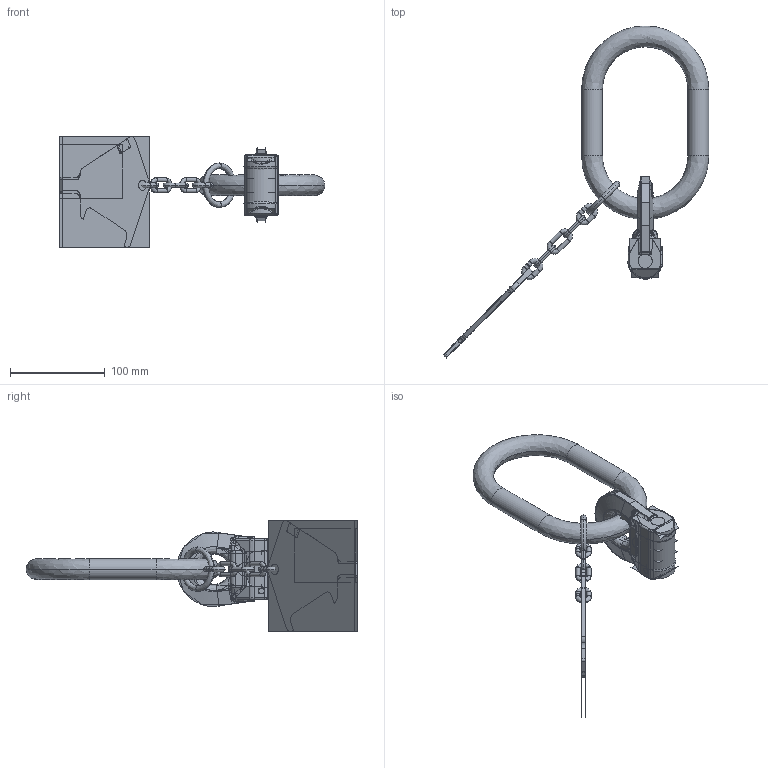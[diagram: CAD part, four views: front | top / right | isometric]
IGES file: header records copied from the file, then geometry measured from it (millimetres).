
Start section:  PTC IGES file: VAK-1-13_7100684_M34474-P-4.igs
Global section: file name: VAK-1-13_7100684_M34474-P-4.igs; native system: Pro/ENGINEER by Parametric Technology Corporation; preprocessor: 2010140; author: Andreas.Wendler; organization: Unknown; date: 20141013.151207; units: millimetre
Bounding box: 279.84 x 349.84 x 116.86 mm (x, y, z)
Volume: 342582.2 mm3; surface area: 391553.3 mm2
Topology: 9 solids, 9 shells, 1114 faces, 5522 edges, 6832 vertices
Faces by surface type: bspline 710, revolution 404
